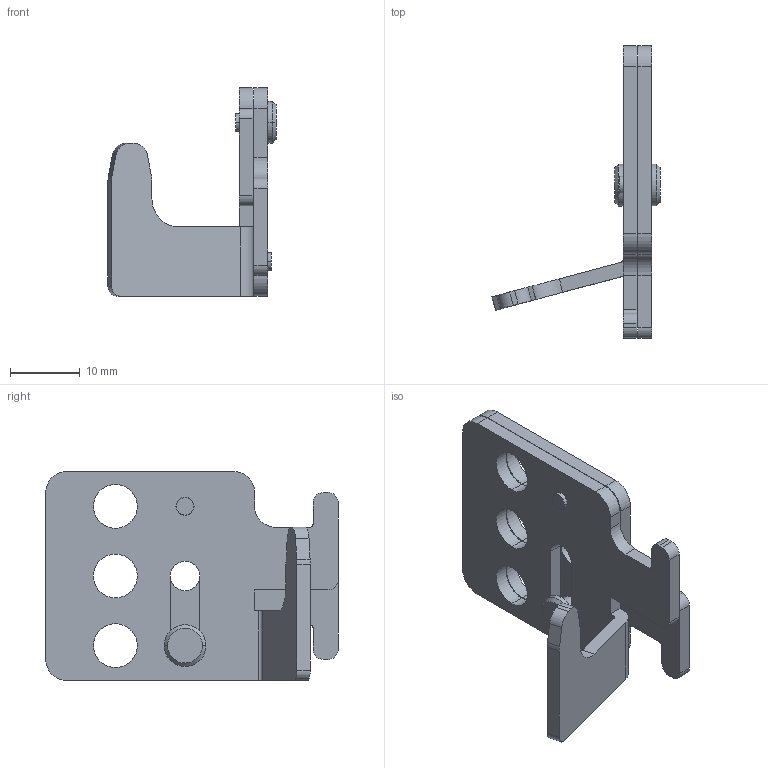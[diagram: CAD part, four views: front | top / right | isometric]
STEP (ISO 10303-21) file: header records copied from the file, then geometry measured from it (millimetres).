
FILE_DESCRIPTION((''),'2;1');
FILE_NAME('U1_PLD_ASSY_ASM','2018-06-04T',('HHI'),(''),'PRO/ENGINEER BY PARAMETRIC TECHNOLOGY CORPORATION, 2012453','PRO/ENGINEER BY PARAMETRIC TECHNOLOGY CORPORATION, 2012453','');
FILE_SCHEMA(('CONFIG_CONTROL_DESIGN'));
Length unit declared in the file: millimetre
Products named in the file (5): U1_PLD_ASSY_SKEL; U1_PLD_HANDLE_LOCK_PLATE; U8_HANDLE_LOCK_RIVETING_PIN; U1_PLD_HANDLE_HOLD_PLATE; U1_PLD_ASSY_ASM
Assembly tree (5 placements, depth 2):
  U1_PLD_ASSY_ASM
    U1_PLD_ASSY_SKEL
    U1_PLD_HANDLE_LOCK_PLATE
    U8_HANDLE_LOCK_RIVETING_PIN  x2
    U1_PLD_HANDLE_HOLD_PLATE
Bounding box: 24.14 x 42 x 30 mm (x, y, z)
Volume: 4169 mm3; surface area: 5379.6 mm2
Topology: 4 solids, 4 shells, 106 faces, 278 edges, 184 vertices
Faces by surface type: cylinder 58, plane 44, cone 4
Entity records: 3189 total; most frequent: DIRECTION 570, CARTESIAN_POINT 530, ORIENTED_EDGE 512, EDGE_CURVE 256, AXIS2_PLACEMENT_3D 210, VERTEX_POINT 170, VECTOR 150, LINE 150
